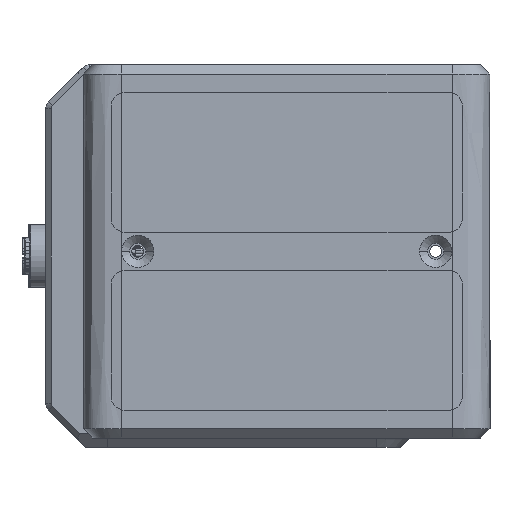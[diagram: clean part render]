
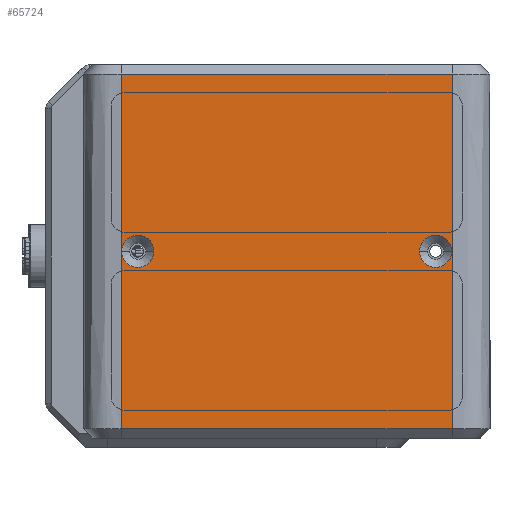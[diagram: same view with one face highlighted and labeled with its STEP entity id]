
A CAD part, front view. The second image highlights one B-rep face of the part: STEP entity #65724.
In plain terms, the highlighted planar face has unit normal (0, -1, 0) as drawn and (0, 0, -1) by its records, which use the part's own axes.
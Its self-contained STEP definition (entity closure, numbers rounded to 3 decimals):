
#118 = DIRECTION ( 'NONE',  ( 1., 0., 0. ) ) ;
#895 = FACE_BOUND ( 'NONE', #68529, .T. ) ;
#2022 = CARTESIAN_POINT ( 'NONE',  ( 34.9, 0., 0. ) ) ;
#2910 = CARTESIAN_POINT ( 'NONE',  ( 0., -37.5, 0. ) ) ;
#3906 = CARTESIAN_POINT ( 'NONE',  ( 28.1, 0., 0. ) ) ;
#5094 = CARTESIAN_POINT ( 'NONE',  ( 35., -12.5, 0. ) ) ;
#5779 = B_SPLINE_CURVE_WITH_KNOTS ( 'NONE', 3,
 ( #33024, #74830, #21788, #57396 ),
 .UNSPECIFIED., .F., .F.,
 ( 4, 4 ),
 ( 0.025, 0.975 ),
 .UNSPECIFIED. ) ;
#6275 = EDGE_CURVE ( 'NONE', #49383, #11329, #49750, .T. ) ;
#7246 = CARTESIAN_POINT ( 'NONE',  ( 35., 37.5, 0. ) ) ;
#7373 = EDGE_CURVE ( 'NONE', #76539, #50746, #28284, .T. ) ;
#8400 = CARTESIAN_POINT ( 'NONE',  ( 35., -37.5, 0. ) ) ;
#9121 = CARTESIAN_POINT ( 'NONE',  ( 31.5, 0., 0. ) ) ;
#9612 = CARTESIAN_POINT ( 'NONE',  ( -35., -37.5, 0. ) ) ;
#11329 = VERTEX_POINT ( 'NONE', #50836 ) ;
#13223 = CARTESIAN_POINT ( 'NONE',  ( 0., 0., 0. ) ) ;
#14980 = ORIENTED_EDGE ( 'NONE', *, *, #23616, .F. ) ;
#15327 = VECTOR ( 'NONE', #34368, 1000. ) ;
#16081 = CARTESIAN_POINT ( 'NONE',  ( -31.5, 0., 0. ) ) ;
#17063 = CARTESIAN_POINT ( 'NONE',  ( 35., -37.5, 0. ) ) ;
#17872 = FACE_OUTER_BOUND ( 'NONE', #72697, .T. ) ;
#20202 = ORIENTED_EDGE ( 'NONE', *, *, #55749, .T. ) ;
#20614 = ORIENTED_EDGE ( 'NONE', *, *, #6275, .F. ) ;
#20629 = CIRCLE ( 'NONE', #39180, 3.4 ) ;
#21444 = DIRECTION ( 'NONE',  ( -1., 0., 0. ) ) ;
#21788 = CARTESIAN_POINT ( 'NONE',  ( -35., 12.5, 0. ) ) ;
#23616 = EDGE_CURVE ( 'NONE', #63604, #56593, #36966, .T. ) ;
#24748 = CIRCLE ( 'NONE', #70492, 3.4 ) ;
#26474 = DIRECTION ( 'NONE',  ( -1., 0., 0. ) ) ;
#26569 = CARTESIAN_POINT ( 'NONE',  ( 31.5, 0., 0. ) ) ;
#26625 = AXIS2_PLACEMENT_3D ( 'NONE', #13223, #37185, #118 ) ;
#26940 = DIRECTION ( 'NONE',  ( 0., 0., -1. ) ) ;
#26959 = DIRECTION ( 'NONE',  ( -1., 0., 0. ) ) ;
#28284 = B_SPLINE_CURVE_WITH_KNOTS ( 'NONE', 3,
 ( #70835, #52650, #5094, #17063 ),
 .UNSPECIFIED., .F., .F.,
 ( 4, 4 ),
 ( 0.025, 0.975 ),
 .UNSPECIFIED. ) ;
#28560 = CARTESIAN_POINT ( 'NONE',  ( 0., 37.5, 0. ) ) ;
#31008 = FACE_BOUND ( 'NONE', #67632, .T. ) ;
#33024 = CARTESIAN_POINT ( 'NONE',  ( -35., -37.5, 0. ) ) ;
#34368 = DIRECTION ( 'NONE',  ( 1., 0., 0. ) ) ;
#36808 = EDGE_CURVE ( 'NONE', #54231, #66536, #5779, .T. ) ;
#36966 = CIRCLE ( 'NONE', #46852, 3.4 ) ;
#37185 = DIRECTION ( 'NONE',  ( 0., 0., 1. ) ) ;
#38538 = DIRECTION ( 'NONE',  ( 0., 0., -1. ) ) ;
#39180 = AXIS2_PLACEMENT_3D ( 'NONE', #16081, #39680, #57102 ) ;
#39582 = EDGE_CURVE ( 'NONE', #66536, #76539, #45201, .T. ) ;
#39680 = DIRECTION ( 'NONE',  ( 0., 0., -1. ) ) ;
#42045 = EDGE_CURVE ( 'NONE', #56593, #63604, #24748, .T. ) ;
#43141 = LINE ( 'NONE', #2910, #44456 ) ;
#44456 = VECTOR ( 'NONE', #26474, 1000. ) ;
#45201 = LINE ( 'NONE', #28560, #15327 ) ;
#46852 = AXIS2_PLACEMENT_3D ( 'NONE', #26569, #38538, #26959 ) ;
#48425 = PLANE ( 'NONE',  #26625 ) ;
#49383 = VERTEX_POINT ( 'NONE', #68834 ) ;
#49721 = EDGE_CURVE ( 'NONE', #11329, #49383, #20629, .T. ) ;
#49750 = CIRCLE ( 'NONE', #55960, 3.4 ) ;
#50521 = DIRECTION ( 'NONE',  ( -1., 0., 0. ) ) ;
#50746 = VERTEX_POINT ( 'NONE', #8400 ) ;
#50836 = CARTESIAN_POINT ( 'NONE',  ( -28.1, 0., 0. ) ) ;
#52650 = CARTESIAN_POINT ( 'NONE',  ( 35., 12.5, 0. ) ) ;
#52859 = ORIENTED_EDGE ( 'NONE', *, *, #49721, .F. ) ;
#54231 = VERTEX_POINT ( 'NONE', #9612 ) ;
#54373 = ORIENTED_EDGE ( 'NONE', *, *, #36808, .T. ) ;
#55749 = EDGE_CURVE ( 'NONE', #50746, #54231, #43141, .T. ) ;
#55960 = AXIS2_PLACEMENT_3D ( 'NONE', #61499, #60721, #21444 ) ;
#56593 = VERTEX_POINT ( 'NONE', #3906 ) ;
#57102 = DIRECTION ( 'NONE',  ( -1., 0., 0. ) ) ;
#57396 = CARTESIAN_POINT ( 'NONE',  ( -35., 37.5, 0. ) ) ;
#60721 = DIRECTION ( 'NONE',  ( 0., 0., -1. ) ) ;
#61198 = CARTESIAN_POINT ( 'NONE',  ( -35., 37.5, 0. ) ) ;
#61499 = CARTESIAN_POINT ( 'NONE',  ( -31.5, 0., 0. ) ) ;
#63604 = VERTEX_POINT ( 'NONE', #2022 ) ;
#65724 = ADVANCED_FACE ( 'NONE', ( #895, #31008, #17872 ), #48425, .F. ) ;
#66536 = VERTEX_POINT ( 'NONE', #61198 ) ;
#67632 = EDGE_LOOP ( 'NONE', ( #20614, #52859 ) ) ;
#68529 = EDGE_LOOP ( 'NONE', ( #74273, #14980 ) ) ;
#68834 = CARTESIAN_POINT ( 'NONE',  ( -34.9, 0., 0. ) ) ;
#70492 = AXIS2_PLACEMENT_3D ( 'NONE', #9121, #26940, #50521 ) ;
#70835 = CARTESIAN_POINT ( 'NONE',  ( 35., 37.5, 0. ) ) ;
#72697 = EDGE_LOOP ( 'NONE', ( #73363, #20202, #54373, #73621 ) ) ;
#73363 = ORIENTED_EDGE ( 'NONE', *, *, #7373, .T. ) ;
#73621 = ORIENTED_EDGE ( 'NONE', *, *, #39582, .T. ) ;
#74273 = ORIENTED_EDGE ( 'NONE', *, *, #42045, .F. ) ;
#74830 = CARTESIAN_POINT ( 'NONE',  ( -35., -12.5, 0. ) ) ;
#76539 = VERTEX_POINT ( 'NONE', #7246 ) ;
